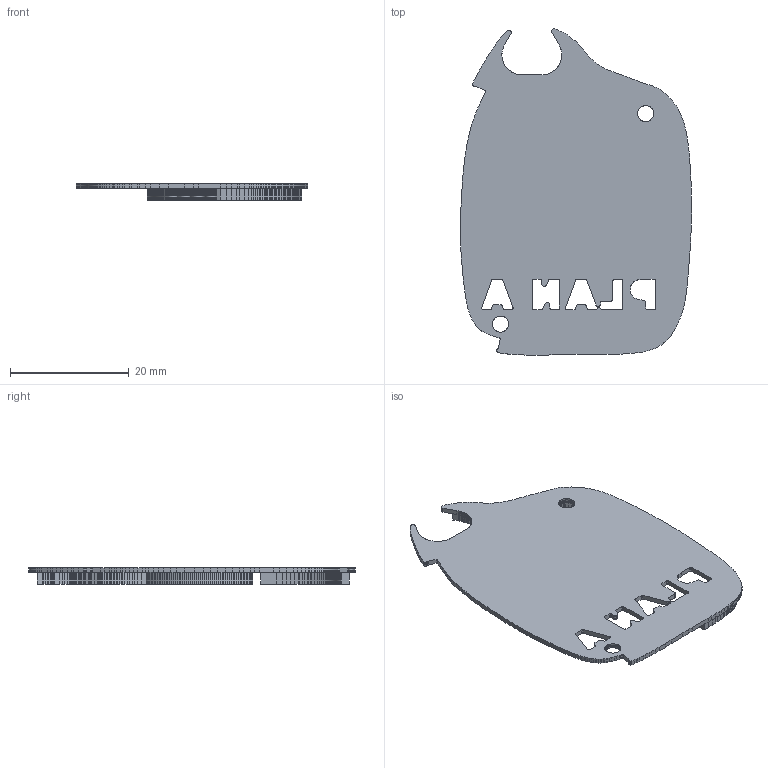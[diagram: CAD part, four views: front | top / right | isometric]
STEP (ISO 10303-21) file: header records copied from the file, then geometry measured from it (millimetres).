
FILE_DESCRIPTION(('Open CASCADE Model'),'2;1');
FILE_NAME('Open CASCADE Shape Model','2026-10-15T03:32:03',('Author'),( 'Open CASCADE'),'Open CASCADE STEP processor 7.9','Open CASCADE 7.9' ,'Unknown');
FILE_SCHEMA(('AUTOMOTIVE_DESIGN { 1 0 10303 214 1 1 1 1 }'));
Products named in the file (1): Open CASCADE STEP translator 7.9 5
Bounding box: 39 x 55.06 x 2.8 mm (x, y, z)
Volume: 1640.4 mm3; surface area: 3981.6 mm2
Topology: 1 solids, 1 shells, 1616 faces, 4824 edges, 3216 vertices
Faces by surface type: plane 1616
Entity records: 114440 total; most frequent: CARTESIAN_POINT 20759, DIRECTION 16252, LINE 13018, VECTOR 13018, ORIENTED_EDGE 9648, PCURVE 9648, DEFINITIONAL_REPRESENTATION 9648, EDGE_CURVE 4824
